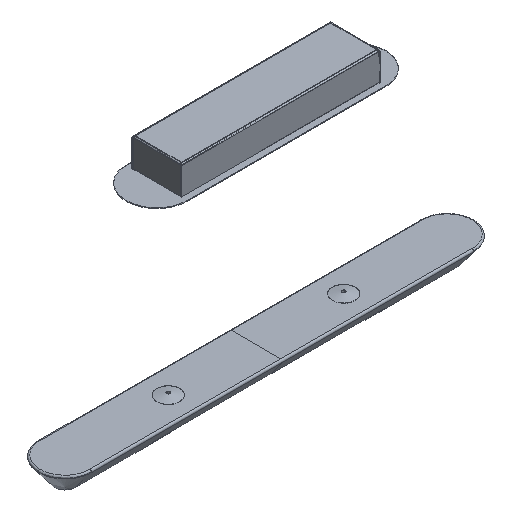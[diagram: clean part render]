
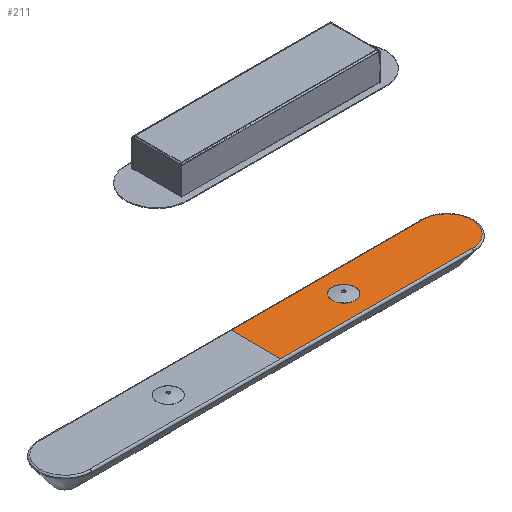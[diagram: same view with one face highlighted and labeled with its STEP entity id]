
A CAD part, isometric view. The second image highlights one B-rep face of the part: STEP entity #211.
In plain terms, the highlighted planar face has unit normal (0, 0, 1).
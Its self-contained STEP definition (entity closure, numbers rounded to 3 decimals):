
#35=FACE_BOUND('',#537,.T.);
#211=ADVANCED_FACE('',(#370,#35),#2449,.T.);
#370=FACE_OUTER_BOUND('',#536,.T.);
#536=EDGE_LOOP('',(#1235,#1236,#1237,#1238,#1239));
#537=EDGE_LOOP('',(#1240,#1241));
#1235=ORIENTED_EDGE('',*,*,#1633,.F.);
#1236=ORIENTED_EDGE('',*,*,#1680,.F.);
#1237=ORIENTED_EDGE('',*,*,#1679,.F.);
#1238=ORIENTED_EDGE('',*,*,#1624,.F.);
#1239=ORIENTED_EDGE('',*,*,#1634,.F.);
#1240=ORIENTED_EDGE('',*,*,#1620,.T.);
#1241=ORIENTED_EDGE('',*,*,#1619,.T.);
#1619=EDGE_CURVE('',#2291,#2292,#1777,.T.);
#1620=EDGE_CURVE('',#2292,#2291,#1778,.T.);
#1624=EDGE_CURVE('',#2296,#2297,#2038,.T.);
#1633=EDGE_CURVE('',#2307,#2302,#2047,.T.);
#1634=EDGE_CURVE('',#2302,#2296,#2048,.T.);
#1679=EDGE_CURVE('',#2297,#2326,#1796,.T.);
#1680=EDGE_CURVE('',#2326,#2307,#1797,.T.);
#1777=(
BOUNDED_CURVE()
B_SPLINE_CURVE(2,(#5888,#5889,#5890,#5891,#5892),.UNSPECIFIED.,.F.,.F.)
B_SPLINE_CURVE_WITH_KNOTS((3,2,3),(-21.991,-10.996,
0.),.UNSPECIFIED.)
CURVE()
GEOMETRIC_REPRESENTATION_ITEM()
RATIONAL_B_SPLINE_CURVE((1.,0.707,1.,0.707,1.))
REPRESENTATION_ITEM('')
);
#1778=(
BOUNDED_CURVE()
B_SPLINE_CURVE(2,(#5893,#5894,#5895,#5896,#5897),.UNSPECIFIED.,.F.,.F.)
B_SPLINE_CURVE_WITH_KNOTS((3,2,3),(-21.991,-10.996,
0.),.UNSPECIFIED.)
CURVE()
GEOMETRIC_REPRESENTATION_ITEM()
RATIONAL_B_SPLINE_CURVE((1.,0.707,1.,0.707,1.))
REPRESENTATION_ITEM('')
);
#1796=(
BOUNDED_CURVE()
B_SPLINE_CURVE(2,(#6033,#6034,#6035),.UNSPECIFIED.,.F.,.F.)
B_SPLINE_CURVE_WITH_KNOTS((3,3),(0.,51.2),.UNSPECIFIED.)
CURVE()
GEOMETRIC_REPRESENTATION_ITEM()
RATIONAL_B_SPLINE_CURVE((1.,0.707,1.))
REPRESENTATION_ITEM('')
);
#1797=(
BOUNDED_CURVE()
B_SPLINE_CURVE(2,(#6036,#6037,#6038),.UNSPECIFIED.,.F.,.F.)
B_SPLINE_CURVE_WITH_KNOTS((3,3),(51.2,102.401),
 .UNSPECIFIED.)
CURVE()
GEOMETRIC_REPRESENTATION_ITEM()
RATIONAL_B_SPLINE_CURVE((1.,0.707,1.))
REPRESENTATION_ITEM('')
);
#2038=B_SPLINE_CURVE_WITH_KNOTS('',1,(#5904,#5905),.UNSPECIFIED.,.F.,.F.,
(2,2),(0.,250.405),.UNSPECIFIED.);
#2047=B_SPLINE_CURVE_WITH_KNOTS('',1,(#5922,#5923),.UNSPECIFIED.,.F.,.F.,
(2,2),(0.,250.405),.UNSPECIFIED.);
#2048=B_SPLINE_CURVE_WITH_KNOTS('',1,(#5924,#5925),.UNSPECIFIED.,.F.,.F.,
(2,2),(0.,65.19),.UNSPECIFIED.);
#2291=VERTEX_POINT('',#5680);
#2292=VERTEX_POINT('',#5681);
#2296=VERTEX_POINT('',#5685);
#2297=VERTEX_POINT('',#5686);
#2302=VERTEX_POINT('',#5691);
#2307=VERTEX_POINT('',#5696);
#2326=VERTEX_POINT('',#5715);
#2449=PLANE('',#2658);
#2658=AXIS2_PLACEMENT_3D('',#5271,#2785,$);
#2785=DIRECTION('',(0.,0.,1.));
#5271=CARTESIAN_POINT('',(-28.42,-30.549,29.23));
#5680=CARTESIAN_POINT('',(115.,1.685,29.23));
#5681=CARTESIAN_POINT('',(115.,15.685,29.23));
#5685=CARTESIAN_POINT('',(0.,41.28,29.23));
#5686=CARTESIAN_POINT('',(250.405,41.28,29.23));
#5691=CARTESIAN_POINT('',(0.,-23.91,29.23));
#5696=CARTESIAN_POINT('',(250.405,-23.91,29.23));
#5715=CARTESIAN_POINT('',(283.,8.685,29.23));
#5888=CARTESIAN_POINT('',(115.,1.685,29.23));
#5889=CARTESIAN_POINT('',(108.,1.685,29.23));
#5890=CARTESIAN_POINT('',(108.,8.685,29.23));
#5891=CARTESIAN_POINT('',(108.,15.685,29.23));
#5892=CARTESIAN_POINT('',(115.,15.685,29.23));
#5893=CARTESIAN_POINT('',(115.,15.685,29.23));
#5894=CARTESIAN_POINT('',(122.,15.685,29.23));
#5895=CARTESIAN_POINT('',(122.,8.685,29.23));
#5896=CARTESIAN_POINT('',(122.,1.685,29.23));
#5897=CARTESIAN_POINT('',(115.,1.685,29.23));
#5904=CARTESIAN_POINT('',(0.,41.28,29.23));
#5905=CARTESIAN_POINT('',(250.405,41.28,29.23));
#5922=CARTESIAN_POINT('',(250.405,-23.91,29.23));
#5923=CARTESIAN_POINT('',(0.,-23.91,29.23));
#5924=CARTESIAN_POINT('',(0.,-23.91,29.23));
#5925=CARTESIAN_POINT('',(0.,41.28,29.23));
#6033=CARTESIAN_POINT('',(250.405,41.28,29.23));
#6034=CARTESIAN_POINT('',(283.,41.28,29.23));
#6035=CARTESIAN_POINT('',(283.,8.685,29.23));
#6036=CARTESIAN_POINT('',(283.,8.685,29.23));
#6037=CARTESIAN_POINT('',(283.,-23.91,29.23));
#6038=CARTESIAN_POINT('',(250.405,-23.91,29.23));
